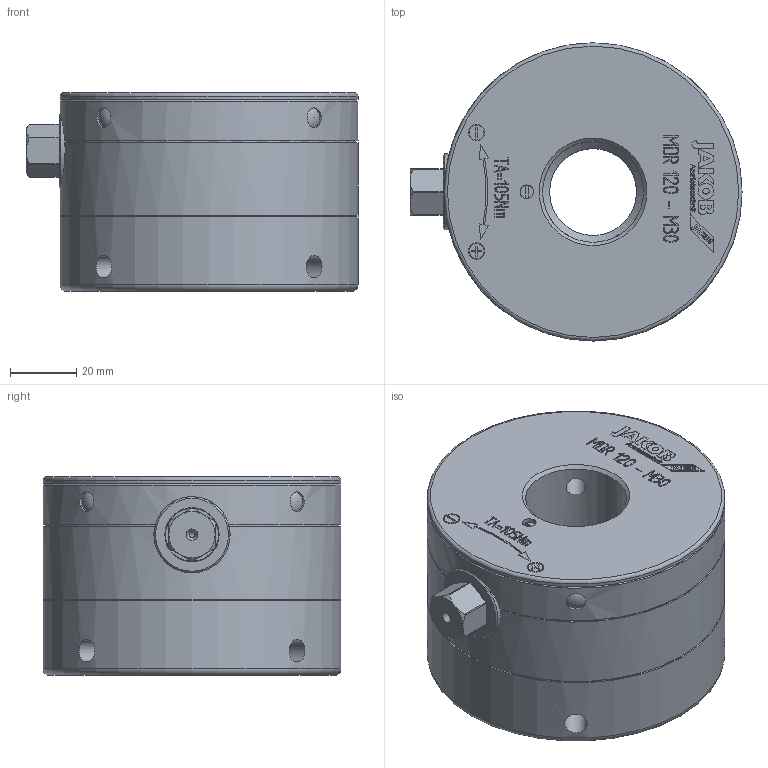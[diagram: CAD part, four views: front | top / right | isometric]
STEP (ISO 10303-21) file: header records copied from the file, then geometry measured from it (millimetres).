
FILE_DESCRIPTION( ( 'Unknown' ), '1' );
FILE_NAME( 'F:/PR/14_Step-Dateien/MDR - MDR-F/MDR 120 - M30 - SW 14.stp', 'Unknown', ( 'Unknown' ), ( 'Unknown' ), 'PSStep 10.1', 'Unknown', ' ' );
FILE_SCHEMA( ( 'AUTOMOTIVE_DESIGN { 1 0 10303 214 1 1 1 1 }' ) );
Length unit declared in the file: millimetre
Products named in the file (1): Text-MDR 100 - M30
Bounding box: 100.3 x 90 x 60.1 mm (x, y, z)
Volume: 341273.2 mm3; surface area: 37349.5 mm2
Topology: 1 solids, 9 shells, 607 faces, 1527 edges, 1018 vertices
Faces by surface type: plane 426, cylinder 66, extrusion 58, cone 37, sphere 16, torus 4
Full cylindrical faces by diameter (mm): 1.6 x2, 4.134 x1, 4.5 x2, 5 x2, 6 x8, 6.8 x8, 12 x1, 16 x1, 26.211 x1, 30.5 x1, 42 x1, 89 x1, 90 x4
Entity records: 25781 total; most frequent: CARTESIAN_POINT 7270, ORIENTED_EDGE 2738, DIRECTION 2530, EDGE_CURVE 1369, VECTOR 1086, LINE 1028, VERTEX_POINT 953, EDGE_LOOP 784
